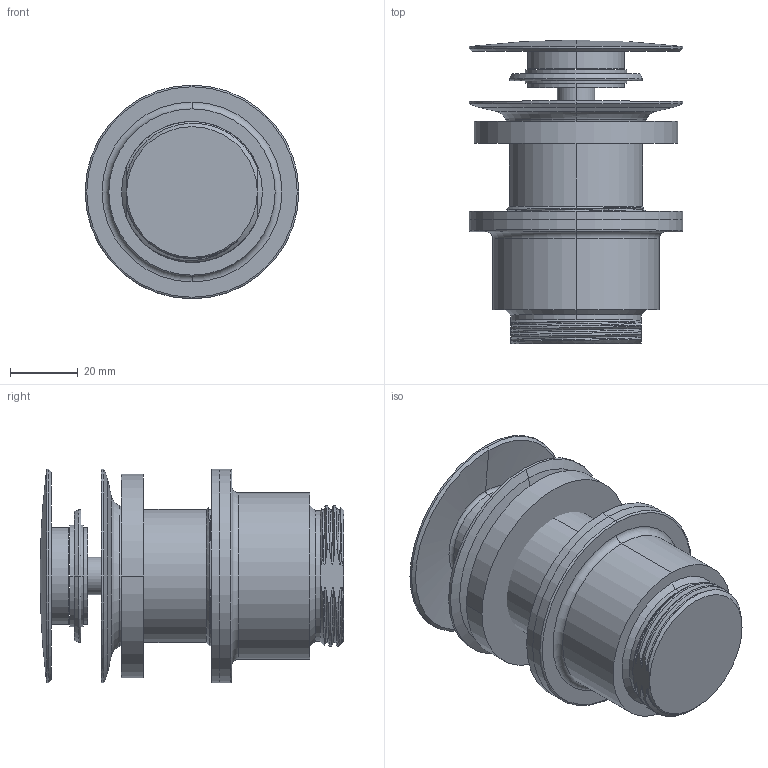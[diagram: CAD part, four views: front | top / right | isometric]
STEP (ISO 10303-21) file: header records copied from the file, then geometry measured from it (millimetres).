
FILE_DESCRIPTION((''),'2;1');
FILE_NAME('23850--00','2026-10-16T12:02:34',('simi1'),(''),'CREO PARAMETRIC BY PTC INC, 2022244','CREO PARAMETRIC BY PTC INC, 2022244','');
FILE_SCHEMA(('CONFIG_CONTROL_DESIGN'));
Length unit declared in the file: millimetre
Products named in the file (1): 23850--00
Bounding box: 63 x 89.5 x 63 mm (x, y, z)
Surface area: 48371.2 mm2 (no closed solid volume)
Topology: 0 solids, 22 shells, 145 faces, 404 edges, 273 vertices
Faces by surface type: cylinder 54, bspline 32, cone 25, plane 16, torus 14, sphere 4
Entity records: 10288 total; most frequent: CARTESIAN_POINT 6898, ORIENTED_EDGE 682, DIRECTION 632, EDGE_CURVE 402, VERTEX_POINT 273, AXIS2_PLACEMENT_3D 261, CIRCLE 148, EDGE_LOOP 145
